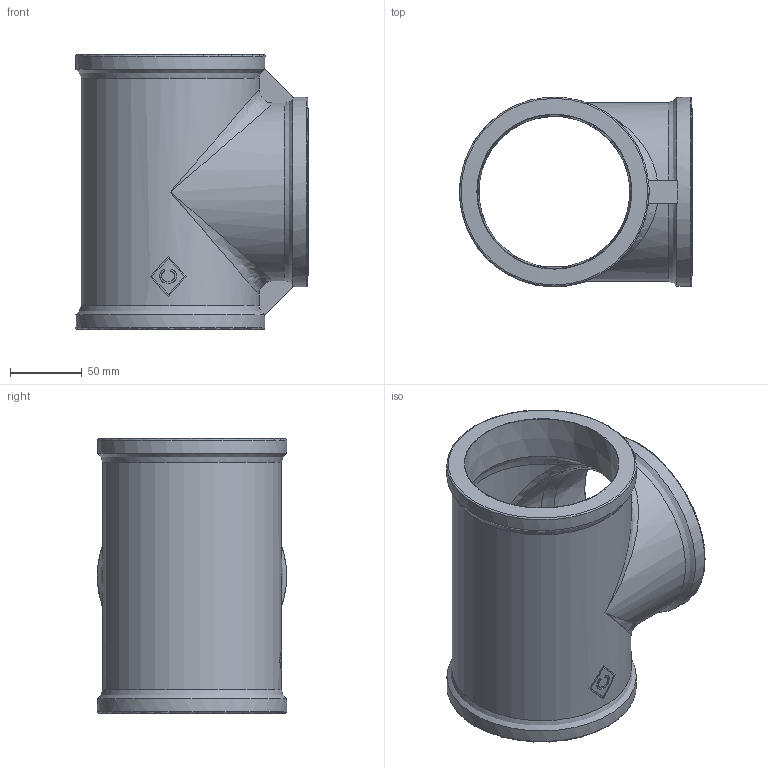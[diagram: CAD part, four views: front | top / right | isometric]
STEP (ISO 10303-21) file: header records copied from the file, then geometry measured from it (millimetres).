
FILE_DESCRIPTION((''),'2;1');
FILE_NAME('P:\Fastrack\53909_CRANE\Crane\Fig.161 Tee\New 4.00 inch\161-4.00.stp','2009-09-16T16:30:05',('btaylor'),(''),'Autodesk Inventor 2008','Autodesk Inventor 2008','');
FILE_SCHEMA(('AUTOMOTIVE_DESIGN { 1 0 10303 214 1 1 1 1 }'));
Length unit declared in the file: millimetre
Products named in the file (1): 161-4.00
Bounding box: 161.9 x 131.76 x 192 mm (x, y, z)
Volume: 648792.6 mm3; surface area: 171963.1 mm2
Topology: 1 solids, 1 shells, 66 faces, 192 edges, 122 vertices
Faces by surface type: bspline 26, plane 19, cylinder 12, cone 6, torus 3
Full cylindrical faces by diameter (mm): 131.8 x3
Entity records: 4486 total; most frequent: CARTESIAN_POINT 2894, ORIENTED_EDGE 336, DIRECTION 300, EDGE_CURVE 168, AXIS2_PLACEMENT_3D 131, VERTEX_POINT 118, EDGE_LOOP 84, FACE_OUTER_BOUND 66
